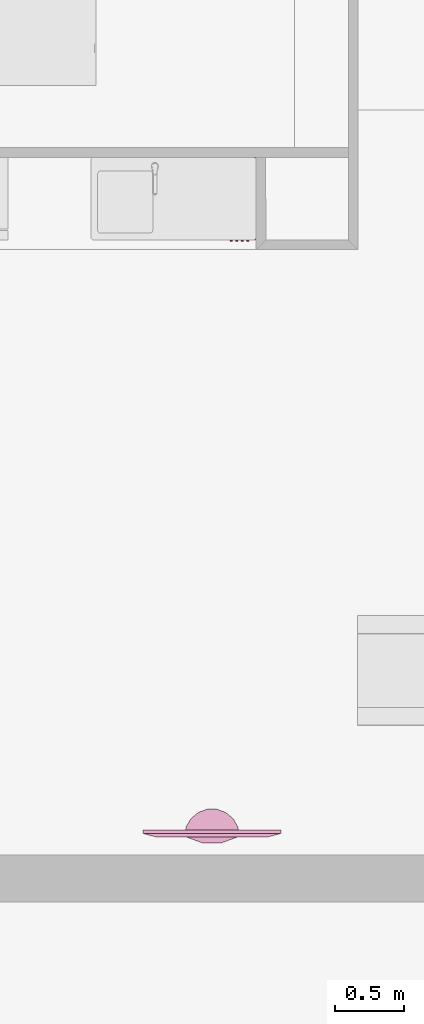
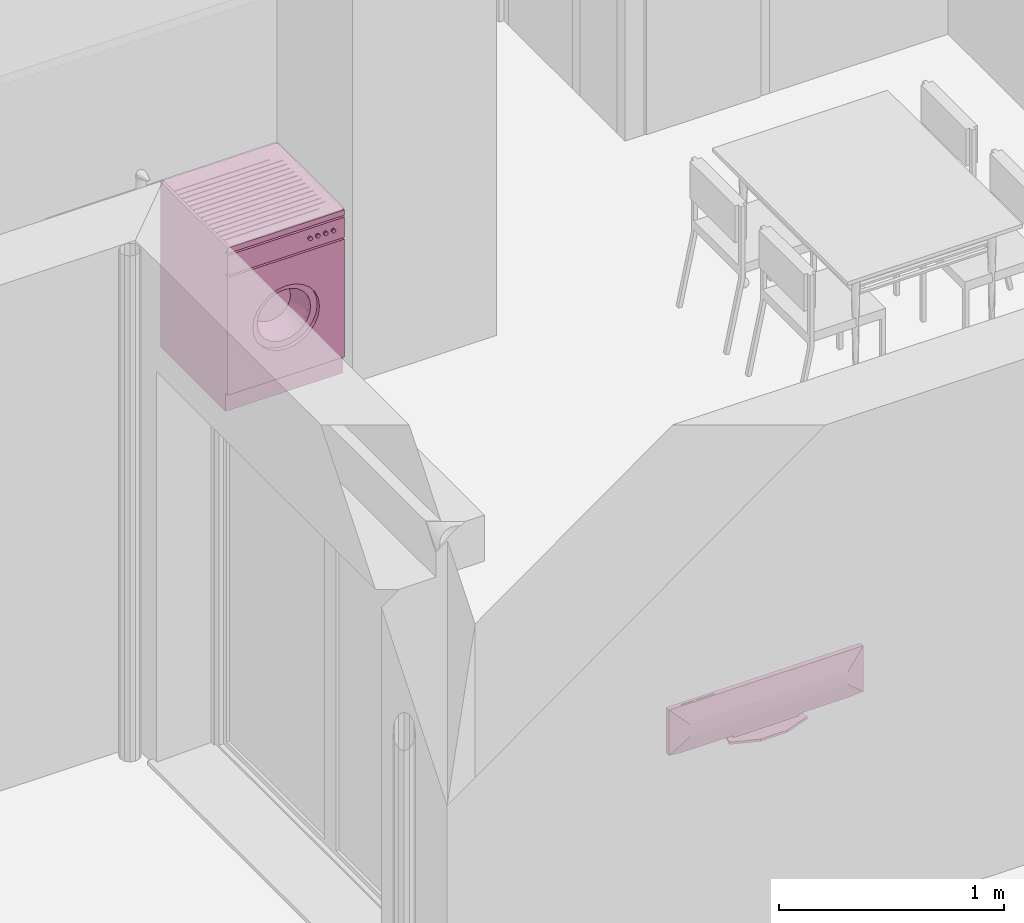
# One storey, part 116 of 164: 2 furnishings.
"""IFC2X3 building model written with IfcOpenShell, lengths in millimetres."""

from ifc_helpers import new_model, entity, si_unit, converted_unit, derived_unit, money_unit, direction, frame, origin_with_axes, place, context, subcontext, project, spatial, open_shell, faceted_brep, surface_model, source, transform, mapped, type_object, element, save


model = new_model("IFC2X3")

# Units and contexts
model_context = context("Model", 3, precision=0.01, world=origin_with_axes(), true_north=direction((0.0, 1.0)))
body_context = subcontext(model_context, "Body", "Model", "MODEL_VIEW")
ifc_project = project(units=[si_unit("LENGTHUNIT", "METRE", prefix="MILLI"), si_unit("AREAUNIT", "SQUARE_METRE"), si_unit("VOLUMEUNIT", "CUBIC_METRE"), converted_unit("PLANEANGLEUNIT", "DEGREE", entity("IfcPlaneAngleMeasure", 0.0174532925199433), si_unit("PLANEANGLEUNIT", "RADIAN"), dimensions=[0, 0, 0, 0, 0, 0, 0]), money_unit("USD"), converted_unit("TIMEUNIT", "Year", entity("IfcTimeMeasure", 31557600.0), si_unit("TIMEUNIT", "SECOND"), dimensions=[0, 0, 1, 0, 0, 0, 0]), si_unit("MASSUNIT", "GRAM", prefix="KILO"), si_unit("THERMODYNAMICTEMPERATUREUNIT", "DEGREE_CELSIUS"), si_unit("LUMINOUSINTENSITYUNIT", "LUMEN"), si_unit("ENERGYUNIT", "JOULE", prefix="MEGA"), derived_unit("THERMALCONDUCTANCEUNIT", [(si_unit("POWERUNIT", "WATT"), 1), (si_unit("LENGTHUNIT", "METRE"), -1), (si_unit("THERMODYNAMICTEMPERATUREUNIT", "KELVIN"), -1)]), derived_unit("SPECIFICHEATCAPACITYUNIT", [(si_unit("ENERGYUNIT", "JOULE"), 1), (si_unit("MASSUNIT", "GRAM", prefix="KILO"), -1), (si_unit("THERMODYNAMICTEMPERATUREUNIT", "KELVIN"), -1)]), derived_unit("MASSDENSITYUNIT", [(si_unit("MASSUNIT", "GRAM", prefix="KILO"), 1), (si_unit("VOLUMEUNIT", "CUBIC_METRE"), -1)])], contexts=[model_context])

# Site, building, storey
site_placement = place(None, origin_with_axes())
site = spatial("IfcSite", under=ifc_project, at=site_placement, Name="Site", CompositionType="ELEMENT")
building_placement = place(site_placement, origin_with_axes())
building = spatial("IfcBuilding", under=site, at=building_placement, Name="Bâtiment", CompositionType="ELEMENT")
storey_placement = place(building_placement, frame((0.0, 0.0, 5750.0), z_axis=(0.0, 0.0, 1.0), x_axis=(1.0, 0.0, 0.0)))
storey = spatial("IfcBuildingStorey", under=building, at=storey_placement, Name="Etage1", CompositionType="ELEMENT", Elevation=5750.0)

# Furnishings
furnishing_element_type_1 = type_object("IfcFurnishingElementType", Name="Machine à laver")
shared_shape_1 = source(origin_with_axes(), body_context, "Body", "SurfaceModel", [
    faceted_brep([(0.0, 20.0, 100.0), (0.0, 0.0, 100.0), (-600.0, 0.0, 100.0), (-600.0, 20.0, 100.0), (0.0, 20.00000000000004, 740.0), (0.0, 0.0, 740.0), (-600.0, 0.0, 740.0), (-471.4285714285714, 0.0, 420.0000000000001), (-465.5872845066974, 0.0, 464.3689791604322), (-448.4614977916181, 0.0, 505.7142857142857), (-421.2183053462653, 0.0, 541.2183053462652), (-385.7142857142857, 0.0, 568.4614977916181), (-344.3689791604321, 0.0, 585.5872845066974), (-300.0000000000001, 0.0, 591.4285714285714), (-255.6310208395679, 0.0, 585.5872845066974), (-214.2857142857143, 0.0, 568.4614977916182), (-178.7816946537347, 0.0, 541.2183053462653), (-151.5385022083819, 0.0, 505.7142857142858), (-134.4127154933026, 0.0, 464.3689791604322), (-128.5714285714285, 0.0, 420.0000000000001), (-134.4127154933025, 0.0, 375.6310208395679), (-151.5385022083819, 0.0, 334.2857142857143), (-178.7816946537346, 0.0, 298.7816946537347), (-214.2857142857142, 0.0, 271.5385022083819), (-255.6310208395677, 0.0, 254.4127154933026), (-299.9999999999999, 0.0, 248.5714285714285), (-344.368979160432, 0.0, 254.4127154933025), (-385.7142857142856, 0.0, 271.5385022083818), (-421.2183053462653, 0.0, 298.7816946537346), (-448.4614977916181, 0.0, 334.2857142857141), (-465.5872845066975, 0.0, 375.6310208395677), (-600.0, 20.00000000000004, 740.0), (-471.4285714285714, 20.00000000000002, 420.0000000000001), (-465.5872845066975, 20.00000000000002, 375.6310208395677), (-448.4614977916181, 20.00000000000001, 334.2857142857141), (-421.2183053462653, 20.00000000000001, 298.7816946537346), (-385.7142857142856, 20.00000000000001, 271.5385022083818), (-344.368979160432, 20.00000000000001, 254.4127154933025), (-299.9999999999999, 20.00000000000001, 248.5714285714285), (-255.6310208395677, 20.00000000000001, 254.4127154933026), (-214.2857142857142, 20.00000000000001, 271.5385022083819), (-178.7816946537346, 20.00000000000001, 298.7816946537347), (-151.5385022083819, 20.00000000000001, 334.2857142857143), (-134.4127154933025, 20.00000000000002, 375.6310208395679), (-128.5714285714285, 20.00000000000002, 420.0000000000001), (-134.4127154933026, 20.00000000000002, 464.3689791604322), (-151.5385022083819, 20.00000000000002, 505.7142857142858), (-178.7816946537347, 20.00000000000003, 541.2183053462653), (-214.2857142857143, 20.00000000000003, 568.4614977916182), (-255.6310208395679, 20.00000000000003, 585.5872845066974), (-300.0000000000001, 20.00000000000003, 591.4285714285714), (-344.3689791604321, 20.00000000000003, 585.5872845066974), (-385.7142857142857, 20.00000000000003, 568.4614977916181), (-421.2183053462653, 20.00000000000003, 541.2183053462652), (-448.4614977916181, 20.00000000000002, 505.7142857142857), (-465.5872845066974, 20.00000000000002, 464.3689791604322)], [[[0, 1, 2, 3]], [[4, 5, 1, 0]], [[1, 5, 6, 2], [7, 8, 9, 10, 11, 12, 13, 14, 15, 16, 17, 18, 19, 20, 21, 22, 23, 24, 25, 26, 27, 28, 29, 30]], [[3, 2, 6, 31]], [[0, 3, 31, 4], [32, 33, 34, 35, 36, 37, 38, 39, 40, 41, 42, 43, 44, 45, 46, 47, 48, 49, 50, 51, 52, 53, 54, 55]], [[31, 6, 5, 4]], [[55, 8, 7, 32]], [[54, 9, 8, 55]], [[53, 10, 9, 54]], [[52, 11, 10, 53]], [[51, 12, 11, 52]], [[50, 13, 12, 51]], [[49, 14, 13, 50]], [[48, 15, 14, 49]], [[47, 16, 15, 48]], [[46, 17, 16, 47]], [[45, 18, 17, 46]], [[44, 19, 18, 45]], [[43, 20, 19, 44]], [[42, 21, 20, 43]], [[41, 22, 21, 42]], [[40, 23, 22, 41]], [[39, 24, 23, 40]], [[38, 25, 24, 39]], [[37, 26, 25, 38]], [[36, 27, 26, 37]], [[35, 28, 27, 36]], [[34, 29, 28, 35]], [[33, 30, 29, 34]], [[32, 7, 30, 33]]]),
    faceted_brep([(-471.4285714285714, 40.00000000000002, 420.0000000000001), (-471.4285714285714, 20.00000000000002, 420.0000000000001), (-465.5872845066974, 20.00000000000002, 464.3689791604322), (-465.5872845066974, 40.00000000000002, 464.3689791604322), (-465.5872845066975, 40.00000000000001, 375.6310208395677), (-465.5872845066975, 20.00000000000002, 375.6310208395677), (-448.4614977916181, 20.00000000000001, 334.2857142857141), (-421.2183053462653, 20.00000000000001, 298.7816946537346), (-385.7142857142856, 20.00000000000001, 271.5385022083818), (-344.368979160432, 20.00000000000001, 254.4127154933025), (-299.9999999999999, 20.00000000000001, 248.5714285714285), (-255.6310208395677, 20.00000000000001, 254.4127154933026), (-214.2857142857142, 20.00000000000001, 271.5385022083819), (-178.7816946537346, 20.00000000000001, 298.7816946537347), (-151.5385022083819, 20.00000000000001, 334.2857142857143), (-134.4127154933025, 20.00000000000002, 375.6310208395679), (-128.5714285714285, 20.00000000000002, 420.0000000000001), (-134.4127154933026, 20.00000000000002, 464.3689791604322), (-151.5385022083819, 20.00000000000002, 505.7142857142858), (-178.7816946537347, 20.00000000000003, 541.2183053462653), (-214.2857142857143, 20.00000000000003, 568.4614977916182), (-255.6310208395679, 20.00000000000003, 585.5872845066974), (-300.0000000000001, 20.00000000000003, 591.4285714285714), (-344.3689791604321, 20.00000000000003, 585.5872845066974), (-385.7142857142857, 20.00000000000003, 568.4614977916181), (-421.2183053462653, 20.00000000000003, 541.2183053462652), (-448.4614977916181, 20.00000000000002, 505.7142857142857), (-437.1428571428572, 20.00000000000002, 420.0000000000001), (-432.469827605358, 20.00000000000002, 455.4951833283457), (-418.7691982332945, 20.00000000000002, 488.5714285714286), (-396.9746442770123, 20.00000000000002, 516.9746442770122), (-368.5714285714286, 20.00000000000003, 538.7691982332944), (-335.4951833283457, 20.00000000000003, 552.469827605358), (-300.0000000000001, 20.00000000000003, 557.1428571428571), (-264.5048166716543, 20.00000000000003, 552.469827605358), (-231.4285714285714, 20.00000000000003, 538.7691982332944), (-203.0253557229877, 20.00000000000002, 516.9746442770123), (-181.2308017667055, 20.00000000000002, 488.5714285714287), (-167.530172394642, 20.00000000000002, 455.4951833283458), (-162.8571428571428, 20.00000000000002, 420.0000000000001), (-167.530172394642, 20.00000000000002, 384.5048166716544), (-181.2308017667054, 20.00000000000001, 351.4285714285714), (-203.0253557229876, 20.00000000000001, 323.0253557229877), (-231.4285714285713, 20.00000000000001, 301.2308017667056), (-264.5048166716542, 20.00000000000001, 287.530172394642), (-299.9999999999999, 20.00000000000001, 282.8571428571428), (-335.4951833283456, 20.00000000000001, 287.530172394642), (-368.5714285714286, 20.00000000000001, 301.2308017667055), (-396.9746442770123, 20.00000000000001, 323.0253557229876), (-418.7691982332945, 20.00000000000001, 351.4285714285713), (-432.469827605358, 20.00000000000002, 384.5048166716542), (-448.4614977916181, 40.00000000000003, 505.7142857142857), (-421.2183053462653, 40.00000000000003, 541.2183053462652), (-385.7142857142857, 40.00000000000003, 568.4614977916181), (-344.3689791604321, 40.00000000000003, 585.5872845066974), (-300.0000000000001, 40.00000000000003, 591.4285714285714), (-255.6310208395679, 40.00000000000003, 585.5872845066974), (-214.2857142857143, 40.00000000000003, 568.4614977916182), (-178.7816946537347, 40.00000000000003, 541.2183053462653), (-151.5385022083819, 40.00000000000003, 505.7142857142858), (-134.4127154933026, 40.00000000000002, 464.3689791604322), (-128.5714285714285, 40.00000000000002, 420.0000000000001), (-134.4127154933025, 40.00000000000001, 375.6310208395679), (-151.5385022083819, 40.00000000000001, 334.2857142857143), (-178.7816946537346, 40.00000000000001, 298.7816946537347), (-214.2857142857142, 40.00000000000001, 271.5385022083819), (-255.6310208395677, 40.00000000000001, 254.4127154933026), (-299.9999999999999, 40.00000000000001, 248.5714285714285), (-344.368979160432, 40.00000000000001, 254.4127154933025), (-385.7142857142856, 40.00000000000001, 271.5385022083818), (-421.2183053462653, 40.00000000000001, 298.7816946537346), (-448.4614977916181, 40.00000000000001, 334.2857142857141), (-437.1428571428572, 40.00000000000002, 420.0000000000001), (-432.469827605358, 40.00000000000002, 384.5048166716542), (-418.7691982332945, 40.00000000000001, 351.4285714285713), (-396.9746442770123, 40.00000000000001, 323.0253557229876), (-368.5714285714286, 40.00000000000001, 301.2308017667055), (-335.4951833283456, 40.00000000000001, 287.530172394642), (-299.9999999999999, 40.00000000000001, 282.8571428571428), (-264.5048166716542, 40.00000000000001, 287.530172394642), (-231.4285714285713, 40.00000000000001, 301.2308017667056), (-203.0253557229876, 40.00000000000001, 323.0253557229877), (-181.2308017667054, 40.00000000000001, 351.4285714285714), (-167.530172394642, 40.00000000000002, 384.5048166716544), (-162.8571428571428, 40.00000000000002, 420.0000000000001), (-167.530172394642, 40.00000000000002, 455.4951833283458), (-181.2308017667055, 40.00000000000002, 488.5714285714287), (-203.0253557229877, 40.00000000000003, 516.9746442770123), (-231.4285714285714, 40.00000000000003, 538.7691982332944), (-264.5048166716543, 40.00000000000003, 552.469827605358), (-300.0000000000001, 40.00000000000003, 557.1428571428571), (-335.4951833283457, 40.00000000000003, 552.469827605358), (-368.5714285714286, 40.00000000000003, 538.7691982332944), (-396.9746442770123, 40.00000000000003, 516.9746442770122), (-418.7691982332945, 40.00000000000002, 488.5714285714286), (-432.469827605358, 40.00000000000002, 455.4951833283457)], [[[0, 1, 2, 3]], [[4, 5, 1, 0]], [[1, 5, 6, 7, 8, 9, 10, 11, 12, 13, 14, 15, 16, 17, 18, 19, 20, 21, 22, 23, 24, 25, 26, 2], [27, 28, 29, 30, 31, 32, 33, 34, 35, 36, 37, 38, 39, 40, 41, 42, 43, 44, 45, 46, 47, 48, 49, 50]], [[3, 2, 26, 51]], [[0, 3, 51, 52, 53, 54, 55, 56, 57, 58, 59, 60, 61, 62, 63, 64, 65, 66, 67, 68, 69, 70, 71, 4], [72, 73, 74, 75, 76, 77, 78, 79, 80, 81, 82, 83, 84, 85, 86, 87, 88, 89, 90, 91, 92, 93, 94, 95]], [[71, 6, 5, 4]], [[70, 7, 6, 71]], [[69, 8, 7, 70]], [[68, 9, 8, 69]], [[67, 10, 9, 68]], [[66, 11, 10, 67]], [[65, 12, 11, 66]], [[64, 13, 12, 65]], [[63, 14, 13, 64]], [[62, 15, 14, 63]], [[61, 16, 15, 62]], [[60, 17, 16, 61]], [[59, 18, 17, 60]], [[58, 19, 18, 59]], [[57, 20, 19, 58]], [[56, 21, 20, 57]], [[55, 22, 21, 56]], [[54, 23, 22, 55]], [[53, 24, 23, 54]], [[52, 25, 24, 53]], [[51, 26, 25, 52]], [[95, 28, 27, 72]], [[94, 29, 28, 95]], [[93, 30, 29, 94]], [[92, 31, 30, 93]], [[91, 32, 31, 92]], [[90, 33, 32, 91]], [[89, 34, 33, 90]], [[88, 35, 34, 89]], [[87, 36, 35, 88]], [[86, 37, 36, 87]], [[85, 38, 37, 86]], [[84, 39, 38, 85]], [[83, 40, 39, 84]], [[82, 41, 40, 83]], [[81, 42, 41, 82]], [[80, 43, 42, 81]], [[79, 44, 43, 80]], [[78, 45, 44, 79]], [[77, 46, 45, 78]], [[76, 47, 46, 77]], [[75, 48, 47, 76]], [[74, 49, 48, 75]], [[73, 50, 49, 74]], [[72, 27, 50, 73]]]),
    surface_model("IfcShellBasedSurfaceModel", [(-264.5048166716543, 39.99999999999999, 552.469827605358), (-273.3786125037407, 140.0, 519.3523707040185), (-300.0, 140.0, 522.8571428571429), (-300.0, 39.99999999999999, 557.1428571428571), (-231.4285714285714, 39.99999999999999, 538.7691982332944), (-248.5714285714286, 140.0, 509.0768986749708), (-227.2690167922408, 140.0, 492.7309832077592), (-210.9231013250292, 140.0, 471.4285714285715), (-200.6476292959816, 140.0, 446.6213874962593), (-197.1428571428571, 140.0, 420.0000000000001), (-200.6476292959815, 140.0, 393.3786125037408), (-210.9231013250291, 140.0, 368.5714285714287), (-227.2690167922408, 140.0, 347.2690167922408), (-248.5714285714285, 140.0, 330.9231013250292), (-273.3786125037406, 140.0, 320.6476292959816), (-299.9999999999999, 140.0, 317.1428571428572), (-326.6213874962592, 140.0, 320.6476292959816), (-351.4285714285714, 140.0, 330.9231013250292), (-372.7309832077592, 140.0, 347.2690167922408), (-389.0768986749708, 140.0, 368.5714285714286), (-399.3523707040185, 140.0, 393.3786125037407), (-402.8571428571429, 140.0, 420.0), (-399.3523707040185, 140.0, 446.6213874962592), (-389.0768986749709, 140.0, 471.4285714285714), (-372.7309832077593, 140.0, 492.7309832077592), (-351.4285714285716, 140.0, 509.0768986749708), (-326.6213874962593, 140.0, 519.3523707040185), (-335.4951833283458, 39.99999999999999, 552.469827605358), (-203.0253557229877, 39.99999999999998, 516.9746442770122), (-181.2308017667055, 39.99999999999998, 488.5714285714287), (-167.5301723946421, 39.99999999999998, 455.4951833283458), (-162.8571428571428, 39.99999999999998, 420.0000000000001), (-167.530172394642, 39.99999999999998, 384.5048166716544), (-181.2308017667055, 39.99999999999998, 351.4285714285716), (-203.0253557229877, 39.99999999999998, 323.0253557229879), (-231.4285714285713, 39.99999999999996, 301.2308017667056), (-264.5048166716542, 39.99999999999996, 287.5301723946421), (-299.9999999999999, 39.99999999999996, 282.8571428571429), (-335.4951833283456, 39.99999999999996, 287.5301723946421), (-368.5714285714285, 39.99999999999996, 301.2308017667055), (-396.9746442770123, 39.99999999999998, 323.0253557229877), (-418.7691982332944, 39.99999999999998, 351.4285714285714), (-432.469827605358, 39.99999999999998, 384.5048166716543), (-437.1428571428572, 39.99999999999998, 419.9999999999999), (-432.469827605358, 39.99999999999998, 455.4951833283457), (-418.7691982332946, 39.99999999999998, 488.5714285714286), (-396.9746442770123, 39.99999999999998, 516.9746442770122), (-368.5714285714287, 39.99999999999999, 538.7691982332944)], [open_shell([[[0, 1, 2, 3]], [[4, 5, 1, 0]], [[2, 1, 5, 6, 7, 8, 9, 10, 11, 12, 13, 14, 15, 16, 17, 18, 19, 20, 21, 22, 23, 24, 25, 26]], [[3, 2, 26, 27]], [[28, 6, 5, 4]], [[29, 7, 6, 28]], [[30, 8, 7, 29]], [[31, 9, 8, 30]], [[32, 10, 9, 31]], [[33, 11, 10, 32]], [[34, 12, 11, 33]], [[35, 13, 12, 34]], [[36, 14, 13, 35]], [[37, 15, 14, 36]], [[38, 16, 15, 37]], [[39, 17, 16, 38]], [[40, 18, 17, 39]], [[41, 19, 18, 40]], [[42, 20, 19, 41]], [[43, 21, 20, 42]], [[44, 22, 21, 43]], [[45, 23, 22, 44]], [[46, 24, 23, 45]], [[47, 25, 24, 46]], [[27, 26, 25, 47]]])]),
    surface_model("IfcShellBasedSurfaceModel", [(0.0, 20.0, 100.0), (0.0, 600.0, 99.99999999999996), (0.0, 600.0, 870.0), (0.0, 20.00000000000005, 870.0)], [open_shell([[[0, 1, 2, 3]]])]),
    surface_model("IfcShellBasedSurfaceModel", [(-600.0, 19.99999999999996, 100.0), (-600.0, 599.9999999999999, 99.99999999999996), (-600.0, 599.9999999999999, 870.0), (-600.0, 20.00000000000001, 870.0)], [open_shell([[[0, 1, 2, 3]]])]),
    surface_model("IfcShellBasedSurfaceModel", [(0.0, 600.0, 100.0), (-600.0, 600.0, 100.0), (-600.0, 600.0, 870.0), (0.0, 600.0, 870.0)], [open_shell([[[0, 1, 2, 3]]])]),
    faceted_brep([(0.0, 20.0, 0.0), (0.0, 20.0, 100.0), (-600.0, 20.0, 100.0), (-600.0, 20.0, 0.0), (0.0, 600.0, 0.0), (0.0, 600.0, 100.0), (-600.0, 600.0, 100.0), (-600.0, 600.0, 0.0)], [[[0, 1, 2, 3]], [[4, 5, 1, 0]], [[1, 5, 6, 2]], [[3, 2, 6, 7]], [[0, 3, 7, 4]], [[7, 6, 5, 4]]]),
    faceted_brep([(0.0, 20.0, 750.0), (0.0, 0.0, 750.0), (-600.0, 0.0, 750.0), (-600.0, 20.0, 750.0), (0.0, 20.00000000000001, 860.0), (0.0, 0.0, 860.0), (-600.0, 0.0, 860.0), (-600.0, 20.00000000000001, 860.0)], [[[0, 1, 2, 3]], [[4, 5, 1, 0]], [[1, 5, 6, 2]], [[3, 2, 6, 7]], [[0, 3, 7, 4]], [[7, 6, 5, 4]]]),
    surface_model("IfcShellBasedSurfaceModel", [(0.0, 20.0, 740.0), (-600.0, 20.0, 740.0), (-600.0, 20.00000000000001, 870.0), (0.0, 20.00000000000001, 870.0)], [open_shell([[[0, 1, 2, 3]]])]),
    faceted_brep([(0.0, 0.0, 870.0), (0.0, 0.0, 900.0), (-600.0, 0.0, 900.0), (-600.0, 0.0, 870.0), (0.0, 600.0, 870.0), (0.0, 600.0, 900.0), (-600.0, 600.0, 900.0), (-600.0, 600.0, 870.0)], [[[0, 1, 2, 3]], [[4, 5, 1, 0]], [[1, 5, 6, 2]], [[3, 2, 6, 7]], [[0, 3, 7, 4]], [[7, 6, 5, 4]]]),
    faceted_brep([(-68.66025403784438, 0.0, 804.9999999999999), (-69.99999999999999, 0.0, 809.9999999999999), (-68.66025403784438, 0.0, 815.0), (-65.0, 0.0, 818.6602540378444), (-60.0, 0.0, 820.0), (-55.0, 0.0, 818.6602540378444), (-51.33974596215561, 0.0, 815.0), (-49.99999999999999, 0.0, 809.9999999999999), (-51.33974596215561, 0.0, 804.9999999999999), (-54.99999999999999, 0.0, 801.3397459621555), (-59.99999999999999, 0.0, 799.9999999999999), (-64.99999999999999, 0.0, 801.3397459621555), (-68.66025403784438, -10.0, 804.9999999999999), (-69.99999999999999, -10.0, 809.9999999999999), (-68.66025403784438, -10.0, 815.0), (-65.0, -10.0, 818.6602540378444), (-60.0, -10.0, 820.0), (-55.0, -10.0, 818.6602540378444), (-51.33974596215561, -10.0, 815.0), (-49.99999999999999, -10.0, 809.9999999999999), (-51.33974596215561, -10.0, 804.9999999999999), (-54.99999999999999, -10.0, 801.3397459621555), (-59.99999999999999, -10.0, 799.9999999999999), (-64.99999999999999, -10.0, 801.3397459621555)], [[[0, 1, 2, 3, 4, 5, 6, 7, 8, 9, 10, 11]], [[0, 12, 13, 1]], [[1, 13, 14, 2]], [[2, 14, 15, 3]], [[3, 15, 16, 4]], [[4, 16, 17, 5]], [[5, 17, 18, 6]], [[6, 18, 19, 7]], [[7, 19, 20, 8]], [[8, 20, 21, 9]], [[9, 21, 22, 10]], [[10, 22, 23, 11]], [[11, 23, 12, 0]], [[12, 23, 22, 21, 20, 19, 18, 17, 16, 15, 14, 13]]]),
    faceted_brep([(-108.6602540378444, 0.0, 804.9999999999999), (-110.0, 0.0, 809.9999999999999), (-108.6602540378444, 0.0, 815.0), (-105.0, 0.0, 818.6602540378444), (-100.0, 0.0, 820.0), (-95.0, 0.0, 818.6602540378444), (-91.33974596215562, 0.0, 815.0), (-90.00000000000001, 0.0, 809.9999999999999), (-91.33974596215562, 0.0, 804.9999999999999), (-95.0, 0.0, 801.3397459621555), (-99.99999999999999, 0.0, 799.9999999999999), (-105.0, 0.0, 801.3397459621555), (-108.6602540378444, -10.0, 804.9999999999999), (-110.0, -10.0, 809.9999999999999), (-108.6602540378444, -10.0, 815.0), (-105.0, -10.0, 818.6602540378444), (-100.0, -10.0, 820.0), (-95.0, -10.0, 818.6602540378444), (-91.33974596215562, -10.0, 815.0), (-90.00000000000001, -10.0, 809.9999999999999), (-91.33974596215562, -10.0, 804.9999999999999), (-95.0, -10.0, 801.3397459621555), (-99.99999999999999, -10.0, 799.9999999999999), (-105.0, -10.0, 801.3397459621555)], [[[0, 1, 2, 3, 4, 5, 6, 7, 8, 9, 10, 11]], [[0, 12, 13, 1]], [[1, 13, 14, 2]], [[2, 14, 15, 3]], [[3, 15, 16, 4]], [[4, 16, 17, 5]], [[5, 17, 18, 6]], [[6, 18, 19, 7]], [[7, 19, 20, 8]], [[8, 20, 21, 9]], [[9, 21, 22, 10]], [[10, 22, 23, 11]], [[11, 23, 12, 0]], [[12, 23, 22, 21, 20, 19, 18, 17, 16, 15, 14, 13]]]),
    faceted_brep([(-148.6602540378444, 0.0, 804.9999999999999), (-150.0, 0.0, 809.9999999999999), (-148.6602540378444, 0.0, 815.0), (-145.0, 0.0, 818.6602540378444), (-140.0, 0.0, 820.0), (-135.0, 0.0, 818.6602540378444), (-131.3397459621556, 0.0, 815.0), (-130.0, 0.0, 809.9999999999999), (-131.3397459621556, 0.0, 804.9999999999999), (-135.0, 0.0, 801.3397459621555), (-140.0, 0.0, 799.9999999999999), (-145.0, 0.0, 801.3397459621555), (-148.6602540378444, -10.0, 804.9999999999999), (-150.0, -10.0, 809.9999999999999), (-148.6602540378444, -10.0, 815.0), (-145.0, -10.0, 818.6602540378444), (-140.0, -10.0, 820.0), (-135.0, -10.0, 818.6602540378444), (-131.3397459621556, -10.0, 815.0), (-130.0, -10.0, 809.9999999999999), (-131.3397459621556, -10.0, 804.9999999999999), (-135.0, -10.0, 801.3397459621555), (-140.0, -10.0, 799.9999999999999), (-145.0, -10.0, 801.3397459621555)], [[[0, 1, 2, 3, 4, 5, 6, 7, 8, 9, 10, 11]], [[0, 12, 13, 1]], [[1, 13, 14, 2]], [[2, 14, 15, 3]], [[3, 15, 16, 4]], [[4, 16, 17, 5]], [[5, 17, 18, 6]], [[6, 18, 19, 7]], [[7, 19, 20, 8]], [[8, 20, 21, 9]], [[9, 21, 22, 10]], [[10, 22, 23, 11]], [[11, 23, 12, 0]], [[12, 23, 22, 21, 20, 19, 18, 17, 16, 15, 14, 13]]]),
    faceted_brep([(-188.6602540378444, 0.0, 804.9999999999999), (-190.0, 0.0, 809.9999999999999), (-188.6602540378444, 0.0, 815.0), (-185.0, 0.0, 818.6602540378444), (-180.0, 0.0, 820.0), (-175.0, 0.0, 818.6602540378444), (-171.3397459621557, 0.0, 815.0), (-170.0, 0.0, 809.9999999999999), (-171.3397459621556, 0.0, 804.9999999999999), (-175.0, 0.0, 801.3397459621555), (-180.0, 0.0, 799.9999999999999), (-185.0, 0.0, 801.3397459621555), (-188.6602540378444, -10.0, 804.9999999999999), (-190.0, -10.0, 809.9999999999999), (-188.6602540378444, -10.0, 815.0), (-185.0, -10.0, 818.6602540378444), (-180.0, -10.0, 820.0), (-175.0, -10.0, 818.6602540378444), (-171.3397459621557, -10.0, 815.0), (-170.0, -10.0, 809.9999999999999), (-171.3397459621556, -10.0, 804.9999999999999), (-175.0, -10.0, 801.3397459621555), (-180.0, -10.0, 799.9999999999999), (-185.0, -10.0, 801.3397459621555)], [[[0, 1, 2, 3, 4, 5, 6, 7, 8, 9, 10, 11]], [[0, 12, 13, 1]], [[1, 13, 14, 2]], [[2, 14, 15, 3]], [[3, 15, 16, 4]], [[4, 16, 17, 5]], [[5, 17, 18, 6]], [[6, 18, 19, 7]], [[7, 19, 20, 8]], [[8, 20, 21, 9]], [[9, 21, 22, 10]], [[10, 22, 23, 11]], [[11, 23, 12, 0]], [[12, 23, 22, 21, 20, 19, 18, 17, 16, 15, 14, 13]]]),
])
furnishing_1_placement = place(storey_placement, frame((2220481.552086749, -653012.6820620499, 0.0), z_axis=(0.0, 0.0, 1.0), x_axis=(0.9999978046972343, -0.00209537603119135, 0.0)))
element("IfcFurnishingElement", 1, at=furnishing_1_placement, inside=storey, type_object=furnishing_element_type_1, Name="Obj.-019", context=body_context, shape_type="MappedRepresentation", body=[
    mapped(shared_shape_1, transform((0.0, 0.0, 0.0))),
])
furnishing_element_type_2 = type_object("IfcFurnishingElementType", Name="Ecran TV plasma")
shared_shape_2 = source(origin_with_axes(), body_context, "Body", "Brep", [
    faceted_brep([(300.0, 45.45454545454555, 0.0), (311.9952377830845, -22.76722074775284, 0.0), (311.9952377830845, -22.76722074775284, 12.72727272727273), (300.0, 45.45454545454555, 12.72727272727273), (300.362869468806, 45.66379498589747, 0.0), (430.8157560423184, 93.01588086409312, 0.0), (569.5967719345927, 92.94321528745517, 0.0), (700.0000000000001, 45.45454545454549, 0.0), (699.9923846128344, 43.70923835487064, 0.0), (687.402263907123, -24.40525330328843, 0.0), (652.3327960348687, -84.13989598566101, 0.0), (598.9906470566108, -128.3293772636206, 0.0), (533.7743345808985, -151.6730637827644, 0.0), (464.5067103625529, -151.3708248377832, 0.0), (399.4965906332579, -127.4589147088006, 0.0), (346.5420938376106, -82.80562387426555, 0.0), (346.5420938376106, -82.80562387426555, 12.72727272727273), (399.4965906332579, -127.4589147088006, 12.72727272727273), (464.5067103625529, -151.3708248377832, 12.72727272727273), (533.7743345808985, -151.6730637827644, 12.72727272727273), (598.9906470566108, -128.3293772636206, 12.72727272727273), (652.3327960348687, -84.13989598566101, 12.72727272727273), (687.402263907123, -24.40525330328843, 12.72727272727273), (699.9923846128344, 43.70923835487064, 12.72727272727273), (700.0000000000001, 45.45454545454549, 12.72727272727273), (569.5967719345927, 92.94321528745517, 12.72727272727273), (430.8157560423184, 93.01588086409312, 12.72727272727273), (300.362869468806, 45.66379498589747, 12.72727272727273)], [[[0, 1, 2, 3]], [[0, 4, 5, 6, 7, 8, 9, 10, 11, 12, 13, 14, 15, 1]], [[1, 15, 16, 2]], [[3, 2, 16, 17, 18, 19, 20, 21, 22, 23, 24, 25, 26, 27]], [[4, 0, 3, 27]], [[5, 4, 27, 26]], [[6, 5, 26, 25]], [[7, 6, 25, 24]], [[8, 7, 24, 23]], [[9, 8, 23, 22]], [[10, 9, 22, 21]], [[11, 10, 21, 20]], [[12, 11, 20, 19]], [[13, 12, 19, 18]], [[14, 13, 18, 17]], [[15, 14, 17, 16]]]),
    faceted_brep([(666.6666666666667, 2.500000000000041, 12.72727272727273), (666.6666666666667, 22.50000000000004, 12.72727272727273), (666.6666666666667, 22.50000000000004, 25.45454545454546), (666.6666666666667, 2.500000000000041, 25.45454545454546), (333.3333333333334, 2.500000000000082, 12.72727272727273), (333.3333333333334, 22.50000000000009, 12.72727272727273), (333.3333333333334, 22.50000000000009, 25.45454545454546), (333.3333333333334, 2.500000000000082, 25.45454545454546)], [[[0, 1, 2, 3]], [[0, 4, 5, 1]], [[1, 5, 6, 2]], [[3, 2, 6, 7]], [[4, 0, 3, 7]], [[5, 4, 7, 6]]]),
    faceted_brep([(62.5, -0.2539999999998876, 65.45454545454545), (62.5, -0.2539999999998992, 254.5454545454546), (62.5, 0.0, 254.5454545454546), (62.5, 0.0, 65.45454545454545), (937.5, -0.2539999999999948, 65.45454545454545), (937.5, -0.2540000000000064, 254.5454545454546), (937.5, 0.0, 254.5454545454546), (937.5, 0.0, 65.45454545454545)], [[[0, 1, 2, 3]], [[0, 4, 5, 1]], [[1, 5, 6, 2]], [[3, 2, 6, 7]], [[4, 0, 3, 7]], [[5, 4, 7, 6]]]),
    faceted_brep([(937.5, 0.0, 25.45454545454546), (1000.0, 0.0, 31.81818181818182), (1000.0, 0.0, 280.0), (0.0, 0.0, 280.0), (0.0, 0.0, 31.81818181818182), (62.5, 0.0, 25.45454545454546), (937.5000003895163, 25.00000000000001, 25.4545450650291), (1000.000000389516, 25.0, 31.81818187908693), (1000.000000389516, 24.99999999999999, 279.9999999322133), (3.895163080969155e-07, 25.00000000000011, 279.9999999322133), (3.895163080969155e-07, 25.00000000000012, 31.81818187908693), (62.50000038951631, 25.00000000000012, 25.4545450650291), (934.156616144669, 42.64268163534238, 91.29792930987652), (906.6987288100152, 50.00000037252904, 118.7558166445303), (906.6987288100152, 50.00000037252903, 186.6987283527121), (93.30127196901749, 50.00000037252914, 186.6987283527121), (93.30127196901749, 50.00000037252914, 118.7558166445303), (65.84338463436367, 42.64268163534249, 91.29792930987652)], [[[0, 1, 2, 3, 4, 5]], [[1, 0, 6, 7]], [[2, 1, 7, 8]], [[3, 2, 8, 9]], [[4, 3, 9, 10]], [[5, 4, 10, 11]], [[0, 5, 11, 6]], [[7, 6, 12]], [[8, 7, 12, 13, 14]], [[9, 8, 14, 15]], [[10, 9, 15, 16, 17]], [[11, 10, 17]], [[6, 11, 17, 16, 13, 12]], [[14, 13, 16, 15]]]),
    faceted_brep([(500.0, -0.7937499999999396, 39.45454545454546), (490.0, -0.7937499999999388, 46.45454545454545), (490.0, 0.0, 46.45454545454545), (500.0, 0.0, 39.45454545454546), (510.0, -0.7937499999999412, 46.45454545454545), (600.0, -0.7937499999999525, 52.18181818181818), (400.0, -0.7937499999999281, 52.18181818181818), (400.0, 0.0, 52.18181818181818), (600.0, 0.0, 52.18181818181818), (510.0, 0.0, 46.45454545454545)], [[[0, 1, 2, 3]], [[0, 4, 5, 6, 1]], [[1, 6, 7, 2]], [[3, 2, 7, 8, 9]], [[4, 0, 3, 9]], [[5, 4, 9, 8]], [[6, 5, 8, 7]]]),
    faceted_brep([(866.6666666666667, 10.0, 280.0), (933.3333333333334, 9.999999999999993, 280.0), (933.3333333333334, 9.999999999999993, 281.5875), (866.6666666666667, 10.0, 281.5875), (866.6666666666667, 16.25, 280.0), (933.3333333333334, 16.24999999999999, 280.0), (933.3333333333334, 16.24999999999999, 281.5875), (866.6666666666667, 16.25, 281.5875)], [[[0, 1, 2, 3]], [[1, 0, 4, 5]], [[2, 1, 5, 6]], [[3, 2, 6, 7]], [[0, 3, 7, 4]], [[5, 4, 7, 6]]]),
    faceted_brep([(795.2380952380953, 10.00000000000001, 280.0), (861.9047619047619, 10.0, 280.0), (861.9047619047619, 10.0, 281.5875), (795.2380952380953, 10.00000000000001, 281.5875), (795.2380952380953, 16.25000000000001, 280.0), (861.9047619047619, 16.25, 280.0), (861.9047619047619, 16.25, 281.5875), (795.2380952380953, 16.25000000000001, 281.5875)], [[[0, 1, 2, 3]], [[1, 0, 4, 5]], [[2, 1, 5, 6]], [[3, 2, 6, 7]], [[0, 3, 7, 4]], [[5, 4, 7, 6]]]),
    faceted_brep([(757.1428571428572, 10.00000000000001, 280.0), (790.4761904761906, 10.00000000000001, 280.0), (790.4761904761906, 10.00000000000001, 281.5875), (757.1428571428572, 10.00000000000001, 281.5875), (757.1428571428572, 16.25000000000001, 280.0), (790.4761904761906, 16.25000000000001, 280.0), (790.4761904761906, 16.25000000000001, 281.5875), (757.1428571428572, 16.25000000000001, 281.5875)], [[[0, 1, 2, 3]], [[1, 0, 4, 5]], [[2, 1, 5, 6]], [[3, 2, 6, 7]], [[0, 3, 7, 4]], [[5, 4, 7, 6]]]),
])
furnishing_2_placement = place(storey_placement, frame((2220661.484865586, -657296.5596079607, 800.0000000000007), z_axis=(0.0, 0.0, 1.0), x_axis=(-0.999999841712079, -0.000562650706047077, 0.0)))
element("IfcFurnishingElement", 2, at=furnishing_2_placement, inside=storey, type_object=furnishing_element_type_2, Name="Obj.-034", context=body_context, shape_type="MappedRepresentation", body=[
    mapped(shared_shape_2, transform((0.0, 0.0, 0.0))),
])

save(model, "model.ifc")
